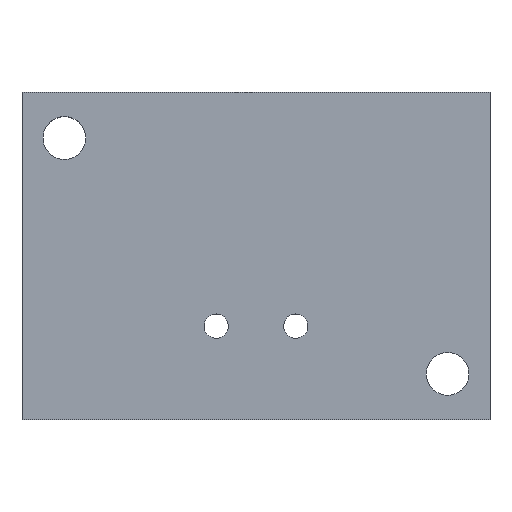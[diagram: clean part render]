
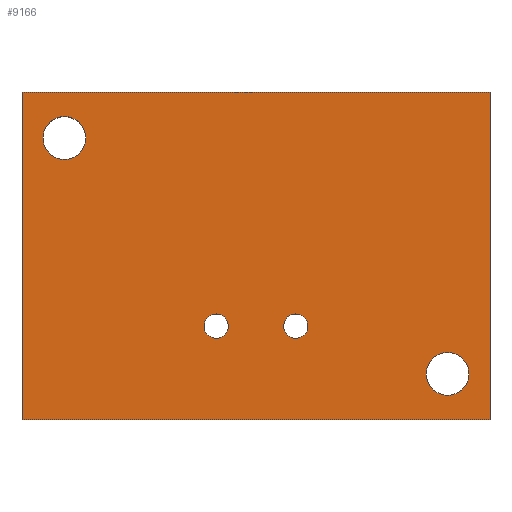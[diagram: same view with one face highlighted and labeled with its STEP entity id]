
A CAD part, top view. The second image highlights one B-rep face of the part: STEP entity #9166.
In plain terms, the highlighted planar face has unit normal (0, 0, 1).
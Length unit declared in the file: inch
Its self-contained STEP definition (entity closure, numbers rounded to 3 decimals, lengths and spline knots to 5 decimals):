
#5 = EDGE_CURVE ( 'NONE', #13730, #13718, #13966, .T. ) ;
#2787 = AXIS2_PLACEMENT_3D ( 'NONE', #10840, #10839, #10838 ) ;
#3948 = CIRCLE ( 'NONE', #17498, 0.06496 ) ;
#3992 = CIRCLE ( 'NONE', #17501, 0.06496 ) ;
#3998 = CIRCLE ( 'NONE', #17502, 0.11417 ) ;
#4946 = EDGE_CURVE ( 'NONE', #13897, #13734, #3948, .T. ) ;
#4957 = EDGE_CURVE ( 'NONE', #13750, #13762, #3992, .T. ) ;
#4959 = EDGE_CURVE ( 'NONE', #13725, #13720, #3998, .T. ) ;
#5007 = ORIENTED_EDGE ( 'NONE', *, *, #20491, .T. ) ;
#5011 = ORIENTED_EDGE ( 'NONE', *, *, #20498, .T. ) ;
#5013 = ORIENTED_EDGE ( 'NONE', *, *, #20496, .F. ) ;
#5014 = ORIENTED_EDGE ( 'NONE', *, *, #4957, .F. ) ;
#5016 = ORIENTED_EDGE ( 'NONE', *, *, #20497, .T. ) ;
#5018 = ORIENTED_EDGE ( 'NONE', *, *, #4959, .T. ) ;
#5019 = ORIENTED_EDGE ( 'NONE', *, *, #20495, .F. ) ;
#5023 = ORIENTED_EDGE ( 'NONE', *, *, #4946, .F. ) ;
#5025 = ORIENTED_EDGE ( 'NONE', *, *, #5, .T. ) ;
#5026 = ORIENTED_EDGE ( 'NONE', *, *, #20493, .T. ) ;
#5027 = ORIENTED_EDGE ( 'NONE', *, *, #20488, .T. ) ;
#5291 = FACE_BOUND ( 'NONE', #19993, .T. ) ;
#5292 = FACE_BOUND ( 'NONE', #19615, .T. ) ;
#5293 = FACE_BOUND ( 'NONE', #19616, .T. ) ;
#5294 = FACE_BOUND ( 'NONE', #19617, .T. ) ;
#5295 = FACE_OUTER_BOUND ( 'NONE', #19618, .T. ) ;
#6159 = CARTESIAN_POINT ( 'NONE',  ( -0.05498, -0.28737, 0.25 ) ) ;
#6160 = CARTESIAN_POINT ( 'NONE',  ( -1.58244, 0.96263, 0.25 ) ) ;
#6201 = CARTESIAN_POINT ( 'NONE',  ( 0.91756, -0.78737, 0.25 ) ) ;
#6332 = CARTESIAN_POINT ( 'NONE',  ( -0.1849, -0.28737, 0.25 ) ) ;
#6598 = CARTESIAN_POINT ( 'NONE',  ( -0.47998, -0.28737, 0.25 ) ) ;
#6702 = CARTESIAN_POINT ( 'NONE',  ( -1.24189, 0.71755, 0.25 ) ) ;
#6781 = CARTESIAN_POINT ( 'NONE',  ( 0.80535, -0.54229, 0.25 ) ) ;
#6980 = CARTESIAN_POINT ( 'NONE',  ( 0.57701, -0.54229, 0.25 ) ) ;
#7075 = CARTESIAN_POINT ( 'NONE',  ( -1.47024, 0.71755, 0.25 ) ) ;
#7084 = CARTESIAN_POINT ( 'NONE',  ( -0.6099, -0.28737, 0.25 ) ) ;
#7129 = CARTESIAN_POINT ( 'NONE',  ( -1.58244, -0.78737, 0.25 ) ) ;
#9166 = ADVANCED_FACE ( 'NONE', ( #5291, #5292, #5293, #5294, #5295 ), #10841, .T. ) ;
#9727 = DIRECTION ( 'NONE',  ( -1., 0., 0. ) ) ;
#9728 = DIRECTION ( 'NONE',  ( 0., 0., -1. ) ) ;
#9729 = CARTESIAN_POINT ( 'NONE',  ( -1.35606, 0.71755, 0.25 ) ) ;
#9971 = CARTESIAN_POINT ( 'NONE',  ( 0.91756, 0.96263, 0.25 ) ) ;
#10838 = DIRECTION ( 'NONE',  ( 1., 0., 0. ) ) ;
#10839 = DIRECTION ( 'NONE',  ( 0., 0., 1. ) ) ;
#10840 = CARTESIAN_POINT ( 'NONE',  ( 0.91756, 0.96263, 0.25 ) ) ;
#10841 = PLANE ( 'NONE',  #2787 ) ;
#13699 = VERTEX_POINT ( 'NONE', #9971 ) ;
#13718 = VERTEX_POINT ( 'NONE', #7075 ) ;
#13720 = VERTEX_POINT ( 'NONE', #6980 ) ;
#13725 = VERTEX_POINT ( 'NONE', #6781 ) ;
#13730 = VERTEX_POINT ( 'NONE', #6702 ) ;
#13734 = VERTEX_POINT ( 'NONE', #6598 ) ;
#13750 = VERTEX_POINT ( 'NONE', #6332 ) ;
#13759 = VERTEX_POINT ( 'NONE', #6201 ) ;
#13762 = VERTEX_POINT ( 'NONE', #6159 ) ;
#13792 = VERTEX_POINT ( 'NONE', #6160 ) ;
#13858 = VERTEX_POINT ( 'NONE', #7129 ) ;
#13897 = VERTEX_POINT ( 'NONE', #7084 ) ;
#13966 = CIRCLE ( 'NONE', #17496, 0.11417 ) ;
#17240 = DIRECTION ( 'NONE',  ( -1., 0., 0. ) ) ;
#17242 = DIRECTION ( 'NONE',  ( 0., 0., -1. ) ) ;
#17243 = CARTESIAN_POINT ( 'NONE',  ( 0.69118, -0.54229, 0.25 ) ) ;
#17247 = DIRECTION ( 'NONE',  ( 1., 0., 0. ) ) ;
#17248 = DIRECTION ( 'NONE',  ( 0., 0., 1. ) ) ;
#17249 = CARTESIAN_POINT ( 'NONE',  ( -0.11994, -0.28737, 0.25 ) ) ;
#17275 = DIRECTION ( 'NONE',  ( 1., 0., 0. ) ) ;
#17276 = DIRECTION ( 'NONE',  ( 0., 0., 1. ) ) ;
#17278 = CARTESIAN_POINT ( 'NONE',  ( -0.54494, -0.28737, 0.25 ) ) ;
#17496 = AXIS2_PLACEMENT_3D ( 'NONE', #9729, #9728, #9727 ) ;
#17498 = AXIS2_PLACEMENT_3D ( 'NONE', #17278, #17276, #17275 ) ;
#17501 = AXIS2_PLACEMENT_3D ( 'NONE', #17249, #17248, #17247 ) ;
#17502 = AXIS2_PLACEMENT_3D ( 'NONE', #17243, #17242, #17240 ) ;
#17618 = DIRECTION ( 'NONE',  ( -1., 0., 0. ) ) ;
#17619 = DIRECTION ( 'NONE',  ( 0., 0., -1. ) ) ;
#17620 = CARTESIAN_POINT ( 'NONE',  ( -1.35606, 0.71755, 0.25 ) ) ;
#17621 = DIRECTION ( 'NONE',  ( -1., 0., 0. ) ) ;
#17622 = DIRECTION ( 'NONE',  ( 0., 0., -1. ) ) ;
#17623 = CARTESIAN_POINT ( 'NONE',  ( 0.69118, -0.54229, 0.25 ) ) ;
#17624 = DIRECTION ( 'NONE',  ( 1., 0., 0. ) ) ;
#17625 = DIRECTION ( 'NONE',  ( 0., 0., 1. ) ) ;
#17626 = CARTESIAN_POINT ( 'NONE',  ( -0.11994, -0.28737, 0.25 ) ) ;
#17628 = DIRECTION ( 'NONE',  ( 1., 0., 0. ) ) ;
#17630 = DIRECTION ( 'NONE',  ( 0., 0., 1. ) ) ;
#17631 = CARTESIAN_POINT ( 'NONE',  ( -0.54494, -0.28737, 0.25 ) ) ;
#17632 = DIRECTION ( 'NONE',  ( 1., 0., 0. ) ) ;
#17633 = CARTESIAN_POINT ( 'NONE',  ( 0.91756, -0.78737, 0.25 ) ) ;
#17634 = DIRECTION ( 'NONE',  ( 0., -1., 0. ) ) ;
#17635 = CARTESIAN_POINT ( 'NONE',  ( -1.58244, -0.78737, 0.25 ) ) ;
#17638 = DIRECTION ( 'NONE',  ( -1., 0., 0. ) ) ;
#17639 = CARTESIAN_POINT ( 'NONE',  ( 0.91756, 0.96263, 0.25 ) ) ;
#17644 = DIRECTION ( 'NONE',  ( 0., 1., 0. ) ) ;
#17645 = CARTESIAN_POINT ( 'NONE',  ( 0.91756, -0.78737, 0.25 ) ) ;
#19615 = EDGE_LOOP ( 'NONE', ( #5013, #5014 ) ) ;
#19616 = EDGE_LOOP ( 'NONE', ( #5016, #5018 ) ) ;
#19617 = EDGE_LOOP ( 'NONE', ( #5011, #5025 ) ) ;
#19618 = EDGE_LOOP ( 'NONE', ( #5027, #5007, #5026, #19808 ) ) ;
#19808 = ORIENTED_EDGE ( 'NONE', *, *, #20494, .T. ) ;
#19993 = EDGE_LOOP ( 'NONE', ( #5019, #5023 ) ) ;
#20069 = AXIS2_PLACEMENT_3D ( 'NONE', #17631, #17630, #17628 ) ;
#20070 = AXIS2_PLACEMENT_3D ( 'NONE', #17626, #17625, #17624 ) ;
#20071 = AXIS2_PLACEMENT_3D ( 'NONE', #17623, #17622, #17621 ) ;
#20072 = AXIS2_PLACEMENT_3D ( 'NONE', #17620, #17619, #17618 ) ;
#20488 = EDGE_CURVE ( 'NONE', #13759, #13699, #20773, .T. ) ;
#20491 = EDGE_CURVE ( 'NONE', #13699, #13792, #20779, .T. ) ;
#20493 = EDGE_CURVE ( 'NONE', #13792, #13858, #20783, .T. ) ;
#20494 = EDGE_CURVE ( 'NONE', #13858, #13759, #20785, .T. ) ;
#20495 = EDGE_CURVE ( 'NONE', #13734, #13897, #20787, .T. ) ;
#20496 = EDGE_CURVE ( 'NONE', #13762, #13750, #20788, .T. ) ;
#20497 = EDGE_CURVE ( 'NONE', #13720, #13725, #20789, .T. ) ;
#20498 = EDGE_CURVE ( 'NONE', #13718, #13730, #20791, .T. ) ;
#20773 = LINE ( 'NONE', #17645, #20774 ) ;
#20774 = VECTOR ( 'NONE', #17644, 39.37008 ) ;
#20779 = LINE ( 'NONE', #17639, #20780 ) ;
#20780 = VECTOR ( 'NONE', #17638, 39.37008 ) ;
#20783 = LINE ( 'NONE', #17635, #20784 ) ;
#20784 = VECTOR ( 'NONE', #17634, 39.37008 ) ;
#20785 = LINE ( 'NONE', #17633, #20786 ) ;
#20786 = VECTOR ( 'NONE', #17632, 39.37008 ) ;
#20787 = CIRCLE ( 'NONE', #20069, 0.06496 ) ;
#20788 = CIRCLE ( 'NONE', #20070, 0.06496 ) ;
#20789 = CIRCLE ( 'NONE', #20071, 0.11417 ) ;
#20791 = CIRCLE ( 'NONE', #20072, 0.11417 ) ;
